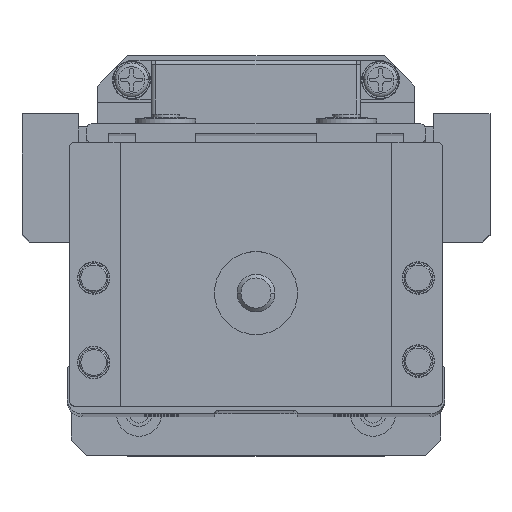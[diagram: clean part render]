
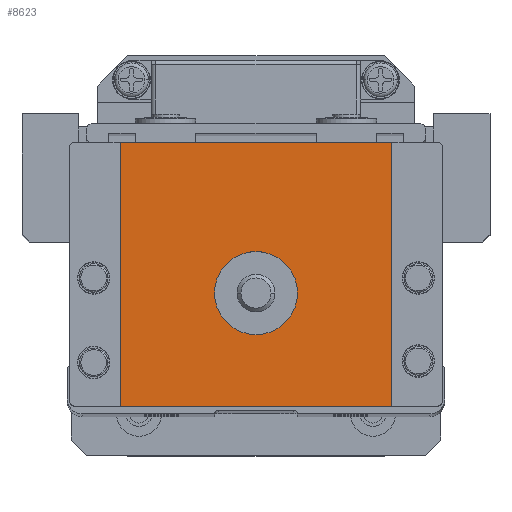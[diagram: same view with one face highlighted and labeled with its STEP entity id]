
A CAD part, top view. The second image highlights one B-rep face of the part: STEP entity #8623.
In plain terms, the highlighted planar face has unit normal (0, 0, 1) as drawn and (1, 0, 0) by its records, which use the part's own axes.
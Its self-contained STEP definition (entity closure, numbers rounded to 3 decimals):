
#1228 = DIRECTION ( 'NONE',  ( 0., 0., 1. ) ) ;
#2671 = CARTESIAN_POINT ( 'NONE',  ( 210., 19.25, 23.95 ) ) ;
#3269 = EDGE_CURVE ( 'NONE', #11301, #21439, #4890, .T. ) ;
#4890 = LINE ( 'NONE', #16736, #20321 ) ;
#5862 = EDGE_LOOP ( 'NONE', ( #10328, #56397 ) ) ;
#6003 = CARTESIAN_POINT ( 'NONE',  ( 210., 19.25, -18. ) ) ;
#6525 = FACE_OUTER_BOUND ( 'NONE', #13402, .T. ) ;
#8519 = DIRECTION ( 'NONE',  ( 0., 0., -1. ) ) ;
#8623 = ADVANCED_FACE ( 'NONE', ( #6525, #20169 ), #54617, .T. ) ;
#8834 = EDGE_CURVE ( 'NONE', #25148, #44342, #59010, .T. ) ;
#9333 = ORIENTED_EDGE ( 'NONE', *, *, #29066, .T. ) ;
#9504 = VERTEX_POINT ( 'NONE', #13890 ) ;
#10328 = ORIENTED_EDGE ( 'NONE', *, *, #8834, .T. ) ;
#11277 = CARTESIAN_POINT ( 'NONE',  ( 210., 20., -23.95 ) ) ;
#11301 = VERTEX_POINT ( 'NONE', #18927 ) ;
#13402 = EDGE_LOOP ( 'NONE', ( #67791, #58045, #9333, #40623 ) ) ;
#13890 = CARTESIAN_POINT ( 'NONE',  ( 210., -15., -18. ) ) ;
#16736 = CARTESIAN_POINT ( 'NONE',  ( 210., 19.25, 18. ) ) ;
#18540 = DIRECTION ( 'NONE',  ( -1., 0., 0. ) ) ;
#18927 = CARTESIAN_POINT ( 'NONE',  ( 210., 20., 18. ) ) ;
#20169 = FACE_BOUND ( 'NONE', #5862, .T. ) ;
#20255 = EDGE_CURVE ( 'NONE', #21439, #9504, #30819, .T. ) ;
#20321 = VECTOR ( 'NONE', #51416, 1000. ) ;
#21439 = VERTEX_POINT ( 'NONE', #60026 ) ;
#23449 = VECTOR ( 'NONE', #30352, 1000. ) ;
#23521 = EDGE_CURVE ( 'NONE', #44342, #25148, #47322, .T. ) ;
#25148 = VERTEX_POINT ( 'NONE', #46382 ) ;
#26984 = CARTESIAN_POINT ( 'NONE',  ( 210., -15., 23.95 ) ) ;
#27307 = AXIS2_PLACEMENT_3D ( 'NONE', #2671, #43190, #8519 ) ;
#29066 = EDGE_CURVE ( 'NONE', #38649, #11301, #75114, .T. ) ;
#30352 = DIRECTION ( 'NONE',  ( 0., 1., 0. ) ) ;
#30709 = VECTOR ( 'NONE', #51823, 1000. ) ;
#30819 = LINE ( 'NONE', #26984, #59820 ) ;
#32360 = EDGE_CURVE ( 'NONE', #9504, #38649, #40615, .T. ) ;
#32849 = DIRECTION ( 'NONE',  ( 0., 0., -1. ) ) ;
#34209 = CARTESIAN_POINT ( 'NONE',  ( 210., 0., -5.5 ) ) ;
#36014 = DIRECTION ( 'NONE',  ( -1., 0., 0. ) ) ;
#38649 = VERTEX_POINT ( 'NONE', #60751 ) ;
#40615 = LINE ( 'NONE', #6003, #23449 ) ;
#40623 = ORIENTED_EDGE ( 'NONE', *, *, #3269, .T. ) ;
#43190 = DIRECTION ( 'NONE',  ( 1., 0., 0. ) ) ;
#44342 = VERTEX_POINT ( 'NONE', #34209 ) ;
#46382 = CARTESIAN_POINT ( 'NONE',  ( 210., 0., 5.5 ) ) ;
#47322 = CIRCLE ( 'NONE', #62250, 5.5 ) ;
#51416 = DIRECTION ( 'NONE',  ( 0., -1., 0. ) ) ;
#51823 = DIRECTION ( 'NONE',  ( 0., 0., 1. ) ) ;
#53035 = AXIS2_PLACEMENT_3D ( 'NONE', #53189, #18540, #59059 ) ;
#53189 = CARTESIAN_POINT ( 'NONE',  ( 210., 0., 0. ) ) ;
#54617 = PLANE ( 'NONE',  #27307 ) ;
#56397 = ORIENTED_EDGE ( 'NONE', *, *, #23521, .T. ) ;
#58045 = ORIENTED_EDGE ( 'NONE', *, *, #32360, .T. ) ;
#59010 = CIRCLE ( 'NONE', #53035, 5.5 ) ;
#59059 = DIRECTION ( 'NONE',  ( 0., 0., 1. ) ) ;
#59820 = VECTOR ( 'NONE', #32849, 1000. ) ;
#60026 = CARTESIAN_POINT ( 'NONE',  ( 210., -15., 18. ) ) ;
#60751 = CARTESIAN_POINT ( 'NONE',  ( 210., 20., -18. ) ) ;
#62250 = AXIS2_PLACEMENT_3D ( 'NONE', #70712, #36014, #1228 ) ;
#67791 = ORIENTED_EDGE ( 'NONE', *, *, #20255, .T. ) ;
#70712 = CARTESIAN_POINT ( 'NONE',  ( 210., 0., 0. ) ) ;
#75114 = LINE ( 'NONE', #11277, #30709 ) ;
